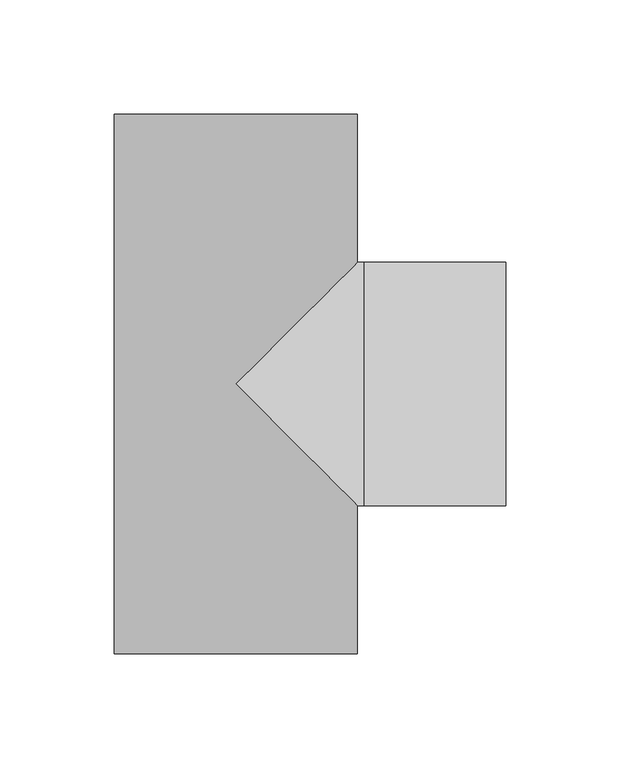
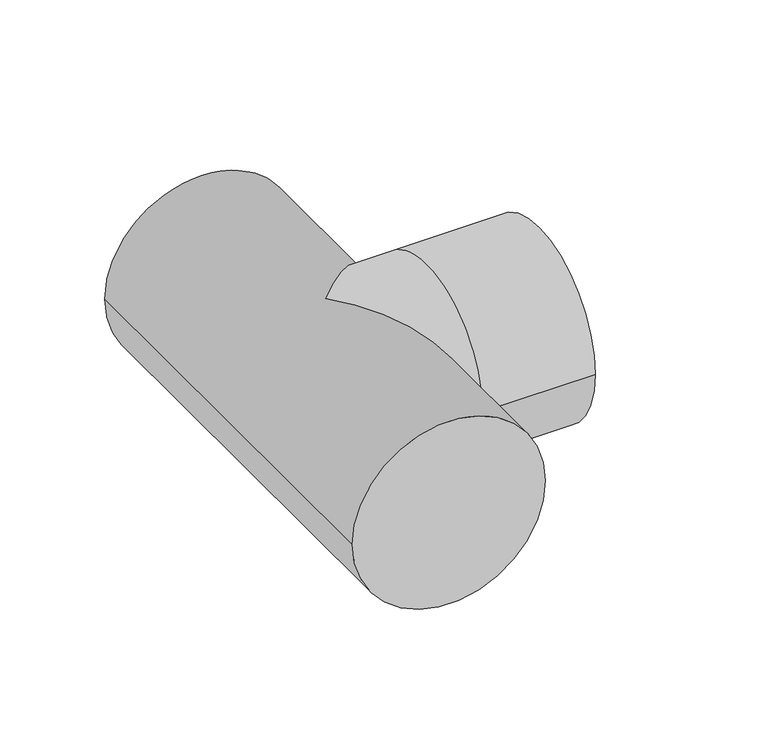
"""IFC4 building model written with IfcOpenShell, lengths in millimetres: pipe fitting geometry, 01051003 : Tes 90º."""

from ifc_helpers import new_model, si_unit, frame, origin, place, context, project, spatial, circle_curve, ellipse_curve, source, transform, mapped, element, save
from ifc_brep_helpers import plane_surface, cylinder_surface, advanced_brep


def pipe_fitting_b5de8ede(model_context):
    return source(origin(), model_context, "Body", "AdvancedBrep", [
        advanced_brep(
        [(-53.2, 118.0, 0.0), (53.2, 118.0, 0.0), (-53.2, -118.0, 0.0), (53.2, -118.0, 0.0), (53.2, -53.2, 0.0), (0.0, 0.0, 53.2), (53.2, 53.2, 0.0), (0.0, 0.0, -53.2), (118.0, 53.2, 0.0), (118.0, -53.2, 0.0), (56.0, -53.2, 0.0), (56.0, 53.2, 0.0)],
        [
            (0, 1, circle_curve(frame((0.0, 118.0, 0.0), z_axis=(0.0, 1.0, 0.0), x_axis=(1.0, 0.0, 0.0)), 53.2)),
            (1, 0, circle_curve(frame((0.0, 118.0, 0.0), z_axis=(0.0, 1.0, 0.0), x_axis=(1.0, 0.0, 0.0)), 53.2)),
            (2, 3, circle_curve(frame((0.0, -118.0, 0.0), z_axis=(0.0, -1.0, 0.0), x_axis=(1.0, 0.0, 0.0)), 53.2)),
            (3, 2, circle_curve(frame((0.0, -118.0, 0.0), z_axis=(0.0, -1.0, 0.0), x_axis=(1.0, 0.0, 0.0)), 53.2)),
            (0, 2),
            (3, 4),
            (4, 5, ellipse_curve(frame((0.0, 0.0, 0.0), z_axis=(-0.7071067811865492, -0.7071067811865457, 0.0), x_axis=(-0.7071067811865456, 0.7071067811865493, 0.0)), 75.2361615, 53.2)),
            (5, 6, ellipse_curve(frame((0.0, 0.0, 0.0), z_axis=(-0.7071067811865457, 0.7071067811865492, 0.0), x_axis=(0.7071067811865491, 0.7071067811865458, 0.0)), 75.2361615, 53.2)),
            (6, 1),
            (6, 7, ellipse_curve(frame((0.0, 0.0, 0.0), z_axis=(-0.7071067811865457, 0.7071067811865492, 0.0), x_axis=(0.7071067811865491, 0.7071067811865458, 0.0)), 75.2361615, 53.2)),
            (7, 4, ellipse_curve(frame((0.0, 0.0, 0.0), z_axis=(-0.7071067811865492, -0.7071067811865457, 0.0), x_axis=(-0.7071067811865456, 0.7071067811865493, 0.0)), 75.2361615, 53.2)),
            (8, 9, circle_curve(frame((118.0, 0.0, 0.0), z_axis=(1.0, 0.0, 0.0), x_axis=(0.0, -1.0, 0.0)), 53.2)),
            (9, 8, circle_curve(frame((118.0, 0.0, 0.0), z_axis=(1.0, 0.0, 0.0), x_axis=(0.0, -1.0, 0.0)), 53.2)),
            (10, 11, circle_curve(frame((56.0, 0.0, 0.0), z_axis=(-1.0, 0.0, 0.0), x_axis=(0.0, -1.0, 0.0)), 53.2)),
            (11, 6),
            (4, 10),
            (11, 10, circle_curve(frame((56.0, 0.0, 0.0), z_axis=(-1.0, 0.0, 0.0), x_axis=(0.0, -1.0, 0.0)), 53.2)),
            (8, 11),
            (10, 9),
        ],
        [
            plane_surface(frame((0.0, 118.0, 0.0), z_axis=(0.0, 1.0, 0.0), x_axis=(0.0, 0.0, 1.0))),
            plane_surface(frame((0.0, -118.0, 0.0), z_axis=(0.0, -1.0, 0.0), x_axis=(0.0, 0.0, 1.0))),
            cylinder_surface(frame((0.0, 118.0, 0.0), z_axis=(0.0, 1.0, 0.0), x_axis=(1.0, 0.0, 0.0)), 53.2),
            plane_surface(frame((118.0, 0.0, 0.0), z_axis=(1.0, 0.0, 0.0), x_axis=(0.0, 0.0, 1.0))),
            cylinder_surface(frame((56.0, 0.0, 0.0), z_axis=(1.0, 0.0, 0.0), x_axis=(0.0, -1.0, 0.0)), 53.2),
            cylinder_surface(frame((118.0, 0.0, 0.0), z_axis=(1.0, 0.0, 0.0), x_axis=(0.0, -1.0, 0.0)), 53.2),
        ],
        [
            (0, [[1, 2]]),
            (1, [[3, 4]]),
            (2, [[-1, 5, -4, 6, 7, 8, 9]]),
            (2, [[-2, -9, 10, 11, -6, -3, -5]]),
            (3, [[12, 13]]),
            (4, [[14, 15, -8, -7, 16]]),
            (4, [[17, -16, -11, -10, -15]]),
            (5, [[-12, 18, -14, 19]]),
            (5, [[-13, -19, -17, -18]]),
        ],
    ),
    ])


if __name__ == "__main__":
    model = new_model("IFC4")
    model_context = context("Model", 3, world=origin())
    ifc_project = project(units=[si_unit("LENGTHUNIT", "METRE", prefix="MILLI")], contexts=[model_context])
    site = spatial("IfcSite", under=ifc_project)
    building = spatial("IfcBuilding", under=site)
    placement = place(None, origin())
    pipe_fitting_shape = pipe_fitting_b5de8ede(model_context)
    element("IfcPipeFitting", 1, ObjectType="01051003 : Tes 90º", at=placement, inside=building, context=model_context, shape_type="MappedRepresentation", body=[
        mapped(pipe_fitting_shape, transform((0.0, 0.0, 0.0), x_axis=(1.0, 0.0, 0.0), y_axis=(0.0, 1.0, 0.0), z_axis=(0.0, 0.0, 1.0))),
    ])
    save(model, "model.ifc")
